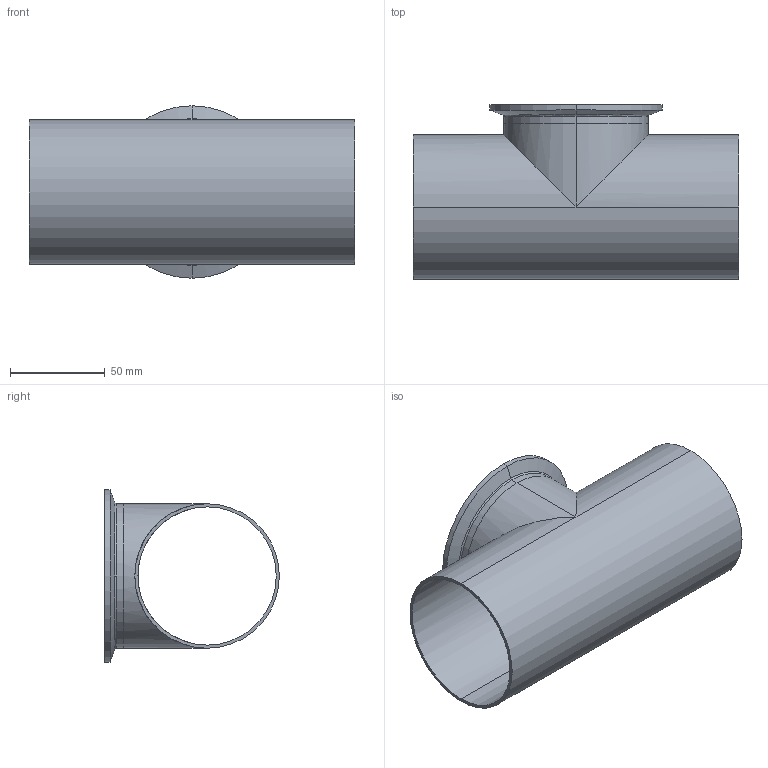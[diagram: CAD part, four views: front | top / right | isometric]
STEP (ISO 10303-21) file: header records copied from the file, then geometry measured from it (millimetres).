
FILE_DESCRIPTION (( 'STEP AP214' ), '1' );
FILE_NAME ('TE7WWCS6L3.0-...STEP', '2016-05-24T12:14:29', ( 'eran' ), ( '' ), 'SwSTEP 2.0', 'SolidWorks 2016', '' );
FILE_SCHEMA (( 'AUTOMOTIVE_DESIGN' ));
Length unit declared in the file: millimetre
Products named in the file (1): TE7WWCS6L3.0-..
Bounding box: 171.4 x 92.1 x 90.91 mm (x, y, z)
Volume: 76420.3 mm3; surface area: 88802 mm2
Topology: 2 solids, 2 shells, 38 faces, 92 edges, 58 vertices
Faces by surface type: cylinder 16, bspline 10, plane 6, cone 6
Entity records: 1870 total; most frequent: CARTESIAN_POINT 935, DIRECTION 198, ORIENTED_EDGE 184, EDGE_CURVE 92, AXIS2_PLACEMENT_3D 87, CIRCLE 58, VERTEX_POINT 58, EDGE_LOOP 44
